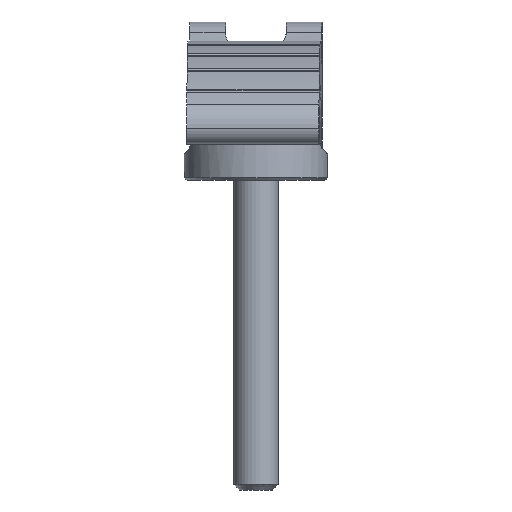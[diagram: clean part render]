
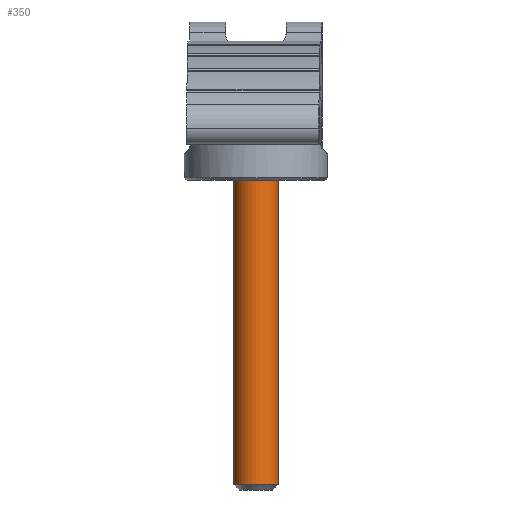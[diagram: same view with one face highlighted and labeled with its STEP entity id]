
A CAD part, left-side view. The second image highlights one B-rep face of the part: STEP entity #350.
In plain terms, the highlighted cylindrical face has radius 4 mm (diameter 8 mm), a full revolution.
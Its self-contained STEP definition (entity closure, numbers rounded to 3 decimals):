
#350=ADVANCED_FACE('',(#1155,#1157),#1159,.T.);
#1155=FACE_BOUND('',#1156,.T.);
#1156=EDGE_LOOP('',(#1581,#1582));
#1157=FACE_BOUND('',#1158,.T.);
#1158=EDGE_LOOP('',(#1583,#1584));
#1159=CYLINDRICAL_SURFACE('',#1160,4.);
#1160=AXIS2_PLACEMENT_3D('',#1161,#1162,#1163);
#1161=CARTESIAN_POINT('',(0.,0.,0.));
#1162=DIRECTION('',(-1.,0.,0.));
#1163=DIRECTION('',(0.,1.,0.));
#1581=ORIENTED_EDGE('',*,*,#1802,.T.);
#1582=ORIENTED_EDGE('',*,*,#1803,.T.);
#1583=ORIENTED_EDGE('',*,*,#1804,.T.);
#1584=ORIENTED_EDGE('',*,*,#1805,.T.);
#1802=EDGE_CURVE('',#2093,#2094,#2095,.T.);
#1803=EDGE_CURVE('',#2094,#2093,#2096,.T.);
#1804=EDGE_CURVE('',#2097,#2098,#2099,.T.);
#1805=EDGE_CURVE('',#2098,#2097,#2100,.T.);
#2093=VERTEX_POINT('',#4310);
#2094=VERTEX_POINT('',#4311);
#2095=CIRCLE('',#4312,4.);
#2096=CIRCLE('',#4316,4.);
#2097=VERTEX_POINT('',#4320);
#2098=VERTEX_POINT('',#4321);
#2099=CIRCLE('',#4322,4.);
#2100=CIRCLE('',#4326,4.);
#4310=CARTESIAN_POINT('',(-1.,4.,0.));
#4311=CARTESIAN_POINT('',(-1.,-4.,0.));
#4312=AXIS2_PLACEMENT_3D('',#4313,#4314,#4315);
#4313=CARTESIAN_POINT('',(-1.,0.,0.));
#4314=DIRECTION('',(-1.,0.,0.));
#4315=DIRECTION('',(0.,1.,0.));
#4316=AXIS2_PLACEMENT_3D('',#4317,#4318,#4319);
#4317=CARTESIAN_POINT('',(-1.,0.,0.));
#4318=DIRECTION('',(-1.,0.,0.));
#4319=DIRECTION('',(0.,-1.,0.));
#4320=CARTESIAN_POINT('',(-79.,4.,0.));
#4321=CARTESIAN_POINT('',(-79.,0.,4.));
#4322=AXIS2_PLACEMENT_3D('',#4323,#4324,#4325);
#4323=CARTESIAN_POINT('',(-79.,0.,0.));
#4324=DIRECTION('',(1.,0.,0.));
#4325=DIRECTION('',(0.,1.,0.));
#4326=AXIS2_PLACEMENT_3D('',#4327,#4328,#4329);
#4327=CARTESIAN_POINT('',(-79.,0.,0.));
#4328=DIRECTION('',(1.,0.,0.));
#4329=DIRECTION('',(0.,0.,1.));
